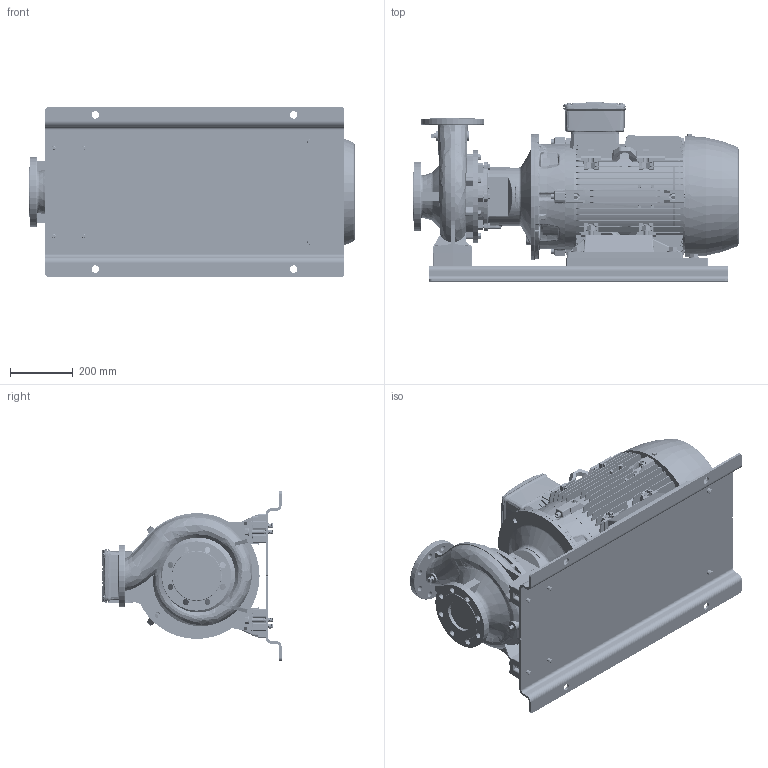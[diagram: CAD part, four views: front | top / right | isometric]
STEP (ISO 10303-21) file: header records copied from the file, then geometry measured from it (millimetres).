
FILE_DESCRIPTION (( 'STEP AP214' ), '1' );
FILE_NAME ('GSD2 80-200_30.0 & 37.0_(200ML)_W21_BP.STEP', '2024-08-02T04:03:39', ( '' ), ( '' ), 'SwSTEP 2.0', 'SolidWorks 2019', '' );
FILE_SCHEMA (( 'AUTOMOTIVE_DESIGN' ));
Length unit declared in the file: millimetre
Products named in the file (20): 200M_L ALIE3_W21T_B35; Parametric bolt and washer_SFT-A359B; Parametric Flat Washer_M16; Parametric bolt and washer_SFT-A319B; CGS11-5311_2_3_4_5_CGS11-5311; 80x25 - CGSDA-5271; N6S2 GSDA-625 F1-1832938-00; Parametric Flat Washer_M12; 80-200-200M_L_______; GSD2  80-200_30.0 & 37.0_(200ML)_W21_BP; Parametric bolt_SFT-A359B; Parametric bolt_SFT-A319B
Assembly tree (39 placements, depth 3):
  GSD2  80-200_30.0 & 37.0_(200ML)_W21_BP
    80-200-200M_L_______
    N6S2 GSDA-625 F1-1832938-00
    CGS11-5311_2_3_4_5_CGS11-5311  x4
    80x25 - CGSDA-5271  x2
    Parametric bolt and washer_SFT-A359B
      Parametric bolt_SFT-A359B
      Parametric Flat Washer_M16
    Parametric bolt and washer_SFT-A359B
      Parametric bolt_SFT-A359B
      Parametric Flat Washer_M16
    Parametric bolt and washer_SFT-A319B
      Parametric bolt_SFT-A319B
      Parametric Flat Washer_M12
    Parametric bolt and washer_SFT-A319B
      Parametric bolt_SFT-A319B
      Parametric Flat Washer_M12
    Parametric bolt and washer_SFT-A319B
      Parametric bolt_SFT-A319B
      Parametric Flat Washer_M12
    Parametric bolt and washer_SFT-A319B
      Parametric bolt_SFT-A319B
      Parametric Flat Washer_M12
    200M_L ALIE3_W21T_B35
    Parametric bolt and washer_SFT-A359B
      Parametric bolt_SFT-A359B
      Parametric Flat Washer_M16
    Parametric bolt and washer_SFT-A359B
      Parametric bolt_SFT-A359B
      Parametric Flat Washer_M16
    Parametric bolt and washer_SFT-A359B
      Parametric bolt_SFT-A359B
      Parametric Flat Washer_M16
    Parametric bolt and washer_SFT-A359B
      Parametric bolt_SFT-A359B
      Parametric Flat Washer_M16
Bounding box: 1033.8 x 569.5 x 540 mm (x, y, z)
Volume: 89364417.3 mm3; surface area: 5588926 mm2
Topology: 50 solids, 60 shells, 7456 faces, 19259 edges, 12351 vertices
Faces by surface type: plane 4324, cylinder 1346, bspline 973, cone 590, torus 219, sphere 4
Entity records: 276124 total; most frequent: CARTESIAN_POINT 117069, ORIENTED_EDGE 35362, DIRECTION 28779, EDGE_CURVE 17681, VERTEX_POINT 11393, LINE 10867, VECTOR 10867, AXIS2_PLACEMENT_3D 8956
